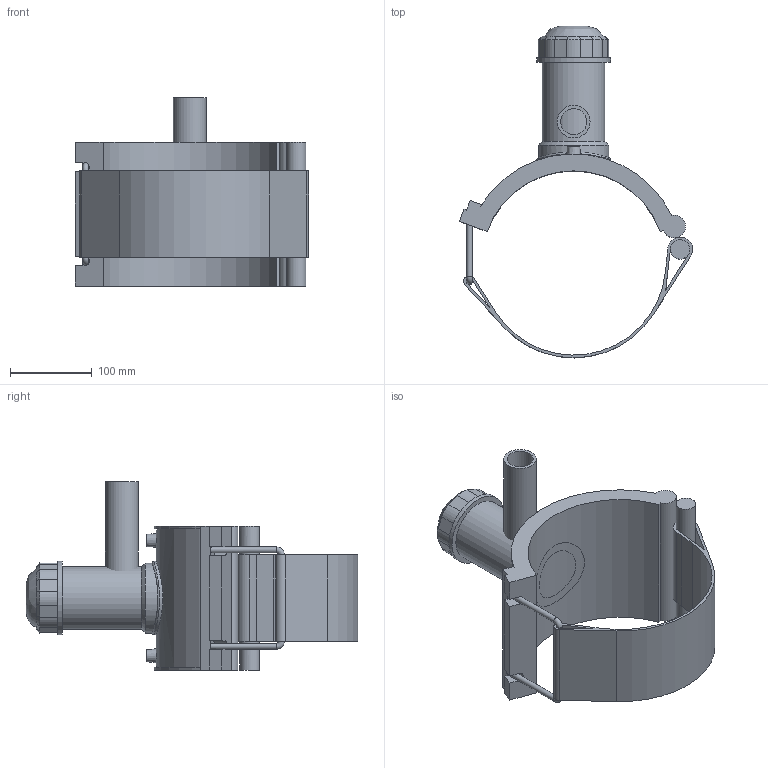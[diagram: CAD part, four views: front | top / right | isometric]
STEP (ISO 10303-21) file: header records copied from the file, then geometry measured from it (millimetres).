
FILE_DESCRIPTION(/* description */ (''),/* implementation_level */ '2;1');
FILE_NAME(/* name */ 'C:\Dropbox\KIMPROJECTS-Inventor 2019\99-16-3568-Processing\ElectroFusion Fittings\4963P4\stp\4963P4225040.stp',/* time_stamp */ '2022-03-17T11:32:30+02:00',/* author */ ('KIM'),/* organization */ (''),/* preprocessor_version */ 'ST-DEVELOPER v17.2',/* originating_system */ 'Autodesk Inventor 2019',/* authorisation */ '');
FILE_SCHEMA (('AUTOMOTIVE_DESIGN { 1 0 10303 214 3 1 1 }'));
Length unit declared in the file: millimetre
Products named in the file (1): 4963P4225040
Bounding box: 284.81 x 405.37 x 230 mm (x, y, z)
Volume: 1946866 mm3; surface area: 387554.3 mm2
Topology: 3 solids, 3 shells, 118 faces, 303 edges, 197 vertices
Faces by surface type: plane 65, cylinder 38, cone 11, torus 2, bspline 2
Full cylindrical faces by diameter (mm): 4 x2, 7.2 x2, 10 x2, 23.712 x1, 32 x1, 40 x1, 63 x1, 76.5 x1, 85.5 x1, 90 x2
Entity records: 4128 total; most frequent: CARTESIAN_POINT 1106, DIRECTION 639, ORIENTED_EDGE 608, EDGE_CURVE 304, AXIS2_PLACEMENT_3D 233, VERTEX_POINT 197, LINE 173, VECTOR 173
